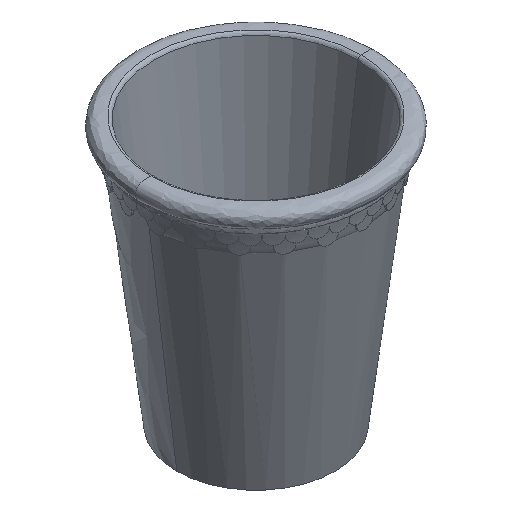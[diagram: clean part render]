
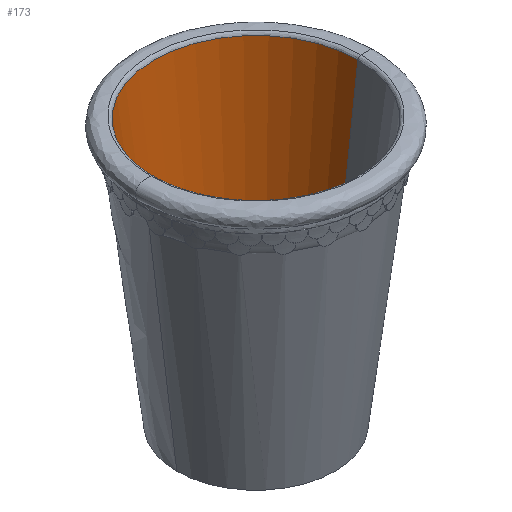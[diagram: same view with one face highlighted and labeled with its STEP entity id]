
A CAD part, isometric view. The second image highlights one B-rep face of the part: STEP entity #173.
In plain terms, the highlighted free-form (B-spline) face has degree [2, 1] with [5, 2] control points.
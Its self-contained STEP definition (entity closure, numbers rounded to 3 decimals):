
#173=ADVANCED_FACE('',(#336),#2918,.T.);
#336=FACE_OUTER_BOUND('',#499,.T.);
#499=EDGE_LOOP('',(#1439,#1440,#1441,#1442));
#1439=ORIENTED_EDGE('',*,*,#1907,.F.);
#1440=ORIENTED_EDGE('',*,*,#1909,.T.);
#1441=ORIENTED_EDGE('',*,*,#1926,.F.);
#1442=ORIENTED_EDGE('',*,*,#1927,.F.);
#1907=EDGE_CURVE('',#2747,#2759,#2385,.T.);
#1909=EDGE_CURVE('',#2747,#2746,#2356,.T.);
#1926=EDGE_CURVE('',#2758,#2746,#2394,.T.);
#1927=EDGE_CURVE('',#2759,#2758,#2360,.T.);
#2356=B_SPLINE_CURVE_WITH_KNOTS('',1,(#73120,#73121),.UNSPECIFIED.,.F.,
 .F.,(2,2),(322.155,974.996),.UNSPECIFIED.);
#2360=B_SPLINE_CURVE_WITH_KNOTS('',1,(#73233,#73234),.UNSPECIFIED.,.F.,
 .F.,(2,2),(322.155,974.996),.UNSPECIFIED.);
#2385=TRIMMED_CURVE($,#2422,(#73111),(#73112),.T.,.CARTESIAN.);
#2394=TRIMMED_CURVE($,#2431,(#73231),(#73232),.T.,.CARTESIAN.);
#2422=CIRCLE('',#3043,257.943);
#2431=CIRCLE('',#3052,178.382);
#2746=VERTEX_POINT('',#47588);
#2747=VERTEX_POINT('',#47589);
#2758=VERTEX_POINT('',#47600);
#2759=VERTEX_POINT('',#47601);
#2918=(
BOUNDED_SURFACE()
B_SPLINE_SURFACE(2,1,((#47229,#47230),(#47231,#47232),(#47233,#47234),(#47235,
#47236),(#47237,#47238)),.UNSPECIFIED.,.F.,.F.,.F.)
B_SPLINE_SURFACE_WITH_KNOTS((3,2,3),(2,2),(831.616,1247.424,
1663.232),(266.616,974.996),.UNSPECIFIED.)
GEOMETRIC_REPRESENTATION_ITEM()
RATIONAL_B_SPLINE_SURFACE(((1.,1.),(0.707,0.707),
(1.,1.),(0.707,0.707),(1.,1.)))
REPRESENTATION_ITEM('')
SURFACE()
);
#3043=AXIS2_PLACEMENT_3D($,#73110,#3113,#3114);
#3052=AXIS2_PLACEMENT_3D($,#73230,#3131,#3132);
#3113=DIRECTION('',(0.,0.,-1.));
#3114=DIRECTION('',(-1.,0.,0.));
#3131=DIRECTION('',(0.,0.,1.));
#3132=DIRECTION('',(1.,0.,0.));
#47229=CARTESIAN_POINT('',(982.541,865.068,728.1));
#47230=CARTESIAN_POINT('',(896.211,865.068,25.));
#47231=CARTESIAN_POINT('',(982.541,1129.78,728.1));
#47232=CARTESIAN_POINT('',(896.211,1043.45,25.));
#47233=CARTESIAN_POINT('',(717.829,1129.78,728.1));
#47234=CARTESIAN_POINT('',(717.829,1043.45,25.));
#47235=CARTESIAN_POINT('',(453.118,1129.78,728.1));
#47236=CARTESIAN_POINT('',(539.447,1043.45,25.));
#47237=CARTESIAN_POINT('',(453.118,865.068,728.1));
#47238=CARTESIAN_POINT('',(539.447,865.068,25.));
#47588=CARTESIAN_POINT('',(539.447,865.068,25.));
#47589=CARTESIAN_POINT('',(459.886,865.068,672.975));
#47600=CARTESIAN_POINT('',(896.211,865.068,25.));
#47601=CARTESIAN_POINT('',(975.772,865.068,672.975));
#73110=CARTESIAN_POINT('',(717.829,865.068,672.975));
#73111=CARTESIAN_POINT('',(459.886,865.068,672.975));
#73112=CARTESIAN_POINT('',(975.772,865.068,672.975));
#73120=CARTESIAN_POINT('',(459.886,865.068,672.975));
#73121=CARTESIAN_POINT('',(539.447,865.068,25.));
#73230=CARTESIAN_POINT('',(717.829,865.068,25.));
#73231=CARTESIAN_POINT('',(896.211,865.068,25.));
#73232=CARTESIAN_POINT('',(539.447,865.068,25.));
#73233=CARTESIAN_POINT('',(975.772,865.068,672.975));
#73234=CARTESIAN_POINT('',(896.211,865.068,25.));
